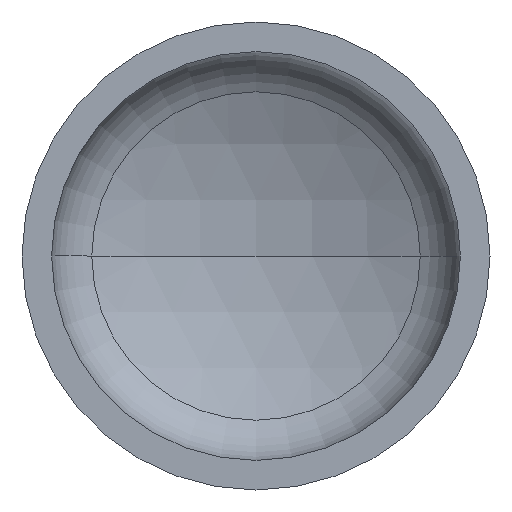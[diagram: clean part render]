
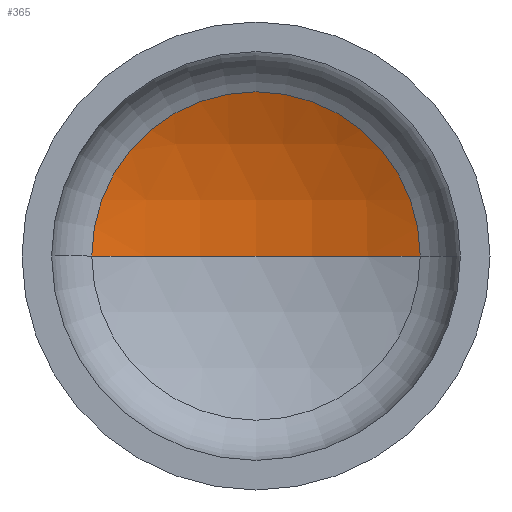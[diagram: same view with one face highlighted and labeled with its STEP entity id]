
A CAD part, front view. The second image highlights one B-rep face of the part: STEP entity #365.
In plain terms, the highlighted spherical face has radius 1440 mm.
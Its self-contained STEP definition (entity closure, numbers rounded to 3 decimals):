
#1 = EDGE_LOOP ( 'NONE', ( #108, #388, #164 ) ) ;
#9 = AXIS2_PLACEMENT_3D ( 'NONE', #132, #329, #33 ) ;
#11 = AXIS2_PLACEMENT_3D ( 'NONE', #400, #251, #253 ) ;
#27 = VERTEX_POINT ( 'NONE', #277 ) ;
#33 = DIRECTION ( 'NONE',  ( -1., 0., 0. ) ) ;
#75 = CIRCLE ( 'NONE', #265, 1440. ) ;
#90 = FACE_OUTER_BOUND ( 'NONE', #1, .T. ) ;
#105 = DIRECTION ( 'NONE',  ( 0., 0., 1. ) ) ;
#106 = DIRECTION ( 'NONE',  ( 0., 0., -1. ) ) ;
#108 = ORIENTED_EDGE ( 'NONE', *, *, #382, .F. ) ;
#126 = CARTESIAN_POINT ( 'NONE',  ( 0., -971.95, 0. ) ) ;
#132 = CARTESIAN_POINT ( 'NONE',  ( 0., -971.95, 0. ) ) ;
#150 = VERTEX_POINT ( 'NONE', #178 ) ;
#164 = ORIENTED_EDGE ( 'NONE', *, *, #341, .T. ) ;
#178 = CARTESIAN_POINT ( 'NONE',  ( 631.622, 322.134, 0. ) ) ;
#194 = VERTEX_POINT ( 'NONE', #302 ) ;
#211 = CIRCLE ( 'NONE', #9, 1440. ) ;
#223 = AXIS2_PLACEMENT_3D ( 'NONE', #126, #106, #407 ) ;
#248 = SPHERICAL_SURFACE ( 'NONE', #223, 1440. ) ;
#251 = DIRECTION ( 'NONE',  ( 0., -1., 0. ) ) ;
#253 = DIRECTION ( 'NONE',  ( 1., 0., 0. ) ) ;
#265 = AXIS2_PLACEMENT_3D ( 'NONE', #363, #105, #307 ) ;
#277 = CARTESIAN_POINT ( 'NONE',  ( 0., 468.05, 0. ) ) ;
#302 = CARTESIAN_POINT ( 'NONE',  ( -631.622, 322.134, 0. ) ) ;
#307 = DIRECTION ( 'NONE',  ( 1., 0., 0. ) ) ;
#329 = DIRECTION ( 'NONE',  ( 0., 0., -1. ) ) ;
#341 = EDGE_CURVE ( 'NONE', #150, #194, #391, .T. ) ;
#345 = EDGE_CURVE ( 'NONE', #27, #150, #211, .T. ) ;
#363 = CARTESIAN_POINT ( 'NONE',  ( 0., -971.95, 0. ) ) ;
#365 = ADVANCED_FACE ( 'NONE', ( #90 ), #248, .F. ) ;
#382 = EDGE_CURVE ( 'NONE', #27, #194, #75, .T. ) ;
#388 = ORIENTED_EDGE ( 'NONE', *, *, #345, .T. ) ;
#391 = CIRCLE ( 'NONE', #11, 631.622 ) ;
#400 = CARTESIAN_POINT ( 'NONE',  ( 0., 322.134, 0. ) ) ;
#407 = DIRECTION ( 'NONE',  ( -1., 0., 0. ) ) ;
